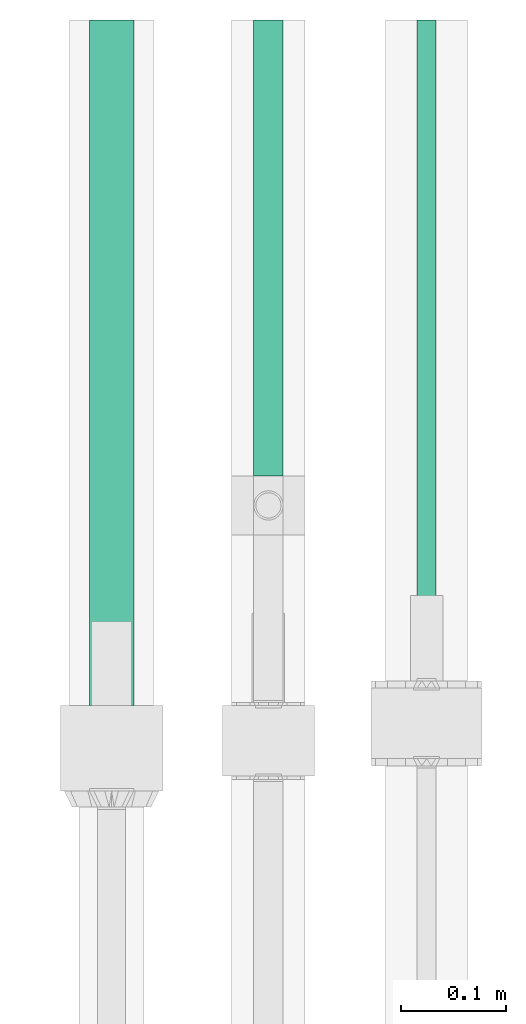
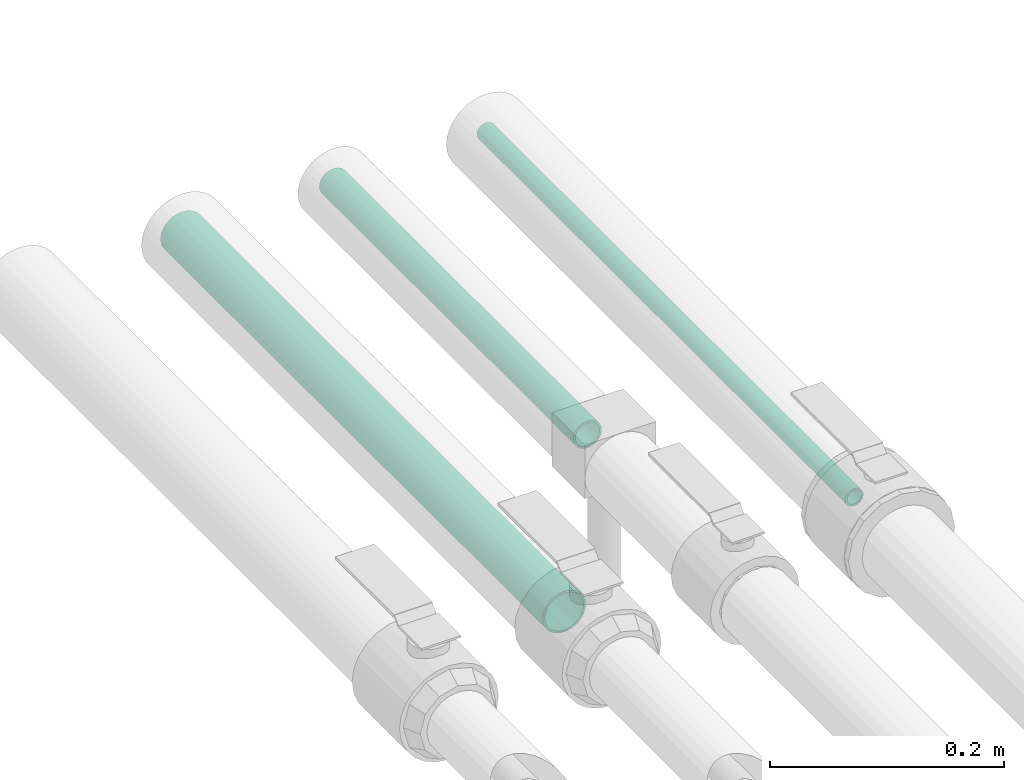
# One storey, part 72 of 83: 3 flow segments.
"""IFC2X3 building model written with IfcOpenShell, lengths in millimetres."""

from ifc_helpers import new_model, entity, si_unit, converted_unit, derived_unit, direction, frame, place, context, subcontext, project, spatial, faceted_brep, type_object, element, save


model = new_model("IFC2X3")

# Units and contexts
model_context = context("Model", 3, precision=0.01, world=frame((0.0, 4.29681676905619e-09, 0.0)), true_north=direction((4.01073788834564e-13, 1.0)))
plan_context = context("Plan", 3, precision=0.01, world=frame((0.0, 4.29681676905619e-09, 0.0)), true_north=direction((4.01073788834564e-13, 1.0)))
body_context = subcontext(model_context, "Body", "Model", "MODEL_VIEW")
ifc_project = project(units=[converted_unit("PLANEANGLEUNIT", "DEGREE", entity("IfcPositiveLengthMeasure", 0.0174532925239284), si_unit("PLANEANGLEUNIT", "RADIAN"), dimensions=[0, 0, 0, 0, 0, 0, 0]), si_unit("AREAUNIT", "SQUARE_METRE"), si_unit("LENGTHUNIT", "METRE", prefix="MILLI"), si_unit("MASSUNIT", "GRAM", prefix="KILO"), si_unit("POWERUNIT", "WATT"), si_unit("PRESSUREUNIT", "PASCAL"), si_unit("FORCEUNIT", "NEWTON", prefix="KILO"), si_unit("ELECTRICVOLTAGEUNIT", "VOLT"), si_unit("ELECTRICCURRENTUNIT", "AMPERE"), si_unit("THERMODYNAMICTEMPERATUREUNIT", "DEGREE_CELSIUS"), si_unit("TIMEUNIT", "SECOND"), si_unit("VOLUMEUNIT", "CUBIC_METRE"), derived_unit("LINEARVELOCITYUNIT", [(si_unit("LENGTHUNIT", "METRE"), 1), (si_unit("TIMEUNIT", "SECOND"), -1)]), derived_unit("VOLUMETRICFLOWRATEUNIT", [(si_unit("VOLUMEUNIT", "CUBIC_METRE"), 1), (si_unit("TIMEUNIT", "SECOND"), -1)]), derived_unit("THERMALTRANSMITTANCEUNIT", [(si_unit("POWERUNIT", "WATT"), 1), (si_unit("THERMODYNAMICTEMPERATUREUNIT", "KELVIN"), -1), (si_unit("AREAUNIT", "SQUARE_METRE"), -1)]), derived_unit("SOUNDPRESSUREUNIT", [(si_unit("PRESSUREUNIT", "PASCAL"), 1)])], contexts=[model_context, plan_context])

# Site, building, storey
site_placement = place(None, frame((0.0, -4.29681676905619e-09, 0.0), z_axis=(0.0, 0.0, 1.0), x_axis=(1.0, 0.0, 0.0)))
site = spatial("IfcSite", under=ifc_project, at=site_placement, Name="ENGM", CompositionType="ELEMENT")
building_placement = place(site_placement, frame((0.0, 4.29681676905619e-09, 0.0), z_axis=(0.0, 0.0, 1.0), x_axis=(1.0, 0.0, 0.0)))
building = spatial("IfcBuilding", under=site, at=building_placement, Name="TI", CompositionType="ELEMENT")
storey_placement = place(building_placement, frame((0.0, 0.0, 204000.0), z_axis=(0.0, 0.0, 1.0), x_axis=(1.0, 0.0, 0.0)))
storey = spatial("IfcBuildingStorey", under=building, at=storey_placement, Name="Nivå D", CompositionType="ELEMENT", Elevation=204000.0)

# Flow segments
pipe_segment_type_1 = type_object("IfcPipeSegmentType", Name="Kobberrør", PredefinedType="RIGIDSEGMENT")
flow_segment_1_placement = place(storey_placement, frame((599881.50429, 700088.1488, 6052.17455), z_axis=(0.0, 0.0, 1.0), x_axis=(0.0, -1.0, 0.0)))
element("IfcFlowSegment", 1, at=flow_segment_1_placement, inside=storey, type_object=pipe_segment_type_1, Name="Kobberrør", context=body_context, shape_type="Brep", body=[
    faceted_brep([(612.648800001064, 11.8176930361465, -2.08377813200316), (612.648800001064, 12.0, 0.0), (1046.6, 12.0, 0.0), (1046.6, 11.8176930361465, -2.08377813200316), (612.648800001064, 11.2763114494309, -4.10424171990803), (1046.6, 11.2763114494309, -4.10424171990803), (612.648800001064, 10.3923048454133, -6.00000000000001), (1046.6, 10.3923048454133, -6.00000000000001), (612.648800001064, 9.19253331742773, -7.71345131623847), (1046.6, 9.19253331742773, -7.71345131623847), (612.648800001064, 7.71345131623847, -9.19253331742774), (1046.6, 7.71345131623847, -9.19253331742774), (612.648800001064, 6.0, -10.3923048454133), (1046.6, 6.0, -10.3923048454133), (612.648800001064, 4.10424171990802, -11.2763114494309), (1046.6, 4.10424171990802, -11.2763114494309), (612.648800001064, 2.08377813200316, -11.8176930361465), (1046.6, 2.08377813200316, -11.8176930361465), (612.648800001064, -2.20436423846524e-15, -12.0), (1046.6, -2.20436423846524e-15, -12.0), (612.648800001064, -2.08377813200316, -11.8176930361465), (1046.6, -2.08377813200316, -11.8176930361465), (612.648800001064, -4.10424171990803, -11.2763114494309), (1046.6, -4.10424171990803, -11.2763114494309), (612.648800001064, -6.00000000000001, -10.3923048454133), (1046.6, -6.00000000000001, -10.3923048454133), (612.648800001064, -7.71345131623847, -9.19253331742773), (1046.6, -7.71345131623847, -9.19253331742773), (612.648800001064, -9.19253331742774, -7.71345131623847), (1046.6, -9.19253331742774, -7.71345131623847), (612.648800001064, -10.3923048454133, -6.0), (1046.6, -10.3923048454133, -6.0), (612.648800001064, -11.2763114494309, -4.10424171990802), (1046.6, -11.2763114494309, -4.10424171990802), (612.648800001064, -11.8176930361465, -2.08377813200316), (1046.6, -11.8176930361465, -2.08377813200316), (612.648800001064, -12.0, 1.46957615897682e-15), (1046.6, -12.0, 1.46957615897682e-15), (612.648800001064, -11.8176930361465, 2.08377813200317), (1046.6, -11.8176930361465, 2.08377813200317), (612.648800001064, -11.2763114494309, 4.10424171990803), (1046.6, -11.2763114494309, 4.10424171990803), (612.648800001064, -10.3923048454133, 6.0), (1046.6, -10.3923048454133, 6.0), (612.648800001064, -9.19253331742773, 7.71345131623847), (1046.6, -9.19253331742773, 7.71345131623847), (612.648800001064, -7.71345131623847, 9.19253331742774), (1046.6, -7.71345131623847, 9.19253331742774), (612.648800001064, -6.0, 10.3923048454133), (1046.6, -6.0, 10.3923048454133), (612.648800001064, -4.10424171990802, 11.2763114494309), (1046.6, -4.10424171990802, 11.2763114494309), (612.648800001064, -2.08377813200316, 11.8176930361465), (1046.6, -2.08377813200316, 11.8176930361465), (612.648800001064, 7.34788079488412e-16, 12.0), (1046.6, 7.34788079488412e-16, 12.0), (612.648800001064, 2.08377813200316, 11.8176930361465), (1046.6, 2.08377813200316, 11.8176930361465), (612.648800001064, 4.10424171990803, 11.2763114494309), (1046.6, 4.10424171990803, 11.2763114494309), (612.648800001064, 6.0, 10.3923048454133), (1046.6, 6.0, 10.3923048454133), (612.648800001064, 7.71345131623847, 9.19253331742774), (1046.6, 7.71345131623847, 9.19253331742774), (612.648800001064, 9.19253331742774, 7.71345131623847), (1046.6, 9.19253331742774, 7.71345131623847), (612.648800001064, 10.3923048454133, 6.0), (1046.6, 10.3923048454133, 6.0), (612.648800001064, 11.2763114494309, 4.10424171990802), (1046.6, 11.2763114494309, 4.10424171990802), (612.648800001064, 11.8176930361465, 2.08377813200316), (1046.6, 11.8176930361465, 2.08377813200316), (612.648800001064, 14.0, 0.0), (612.648800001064, 13.7873085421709, -2.43107448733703), (1046.6, 13.7873085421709, -2.43107448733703), (1046.6, 14.0, 0.0), (612.648800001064, 13.7873085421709, 2.43107448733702), (1046.6, 13.7873085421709, 2.43107448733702), (612.648800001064, 13.1556966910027, 4.78828200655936), (1046.6, 13.1556966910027, 4.78828200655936), (612.648800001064, 12.1243556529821, 7.0), (1046.6, 12.1243556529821, 7.0), (612.648800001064, 10.7246222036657, 8.99902653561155), (1046.6, 10.7246222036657, 8.99902653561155), (612.648800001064, 8.99902653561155, 10.7246222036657), (1046.6, 8.99902653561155, 10.7246222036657), (612.648800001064, 7.0, 12.1243556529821), (1046.6, 7.0, 12.1243556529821), (612.648800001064, 4.78828200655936, 13.1556966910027), (1046.6, 4.78828200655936, 13.1556966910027), (612.648800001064, 2.43107448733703, 13.7873085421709), (1046.6, 2.43107448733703, 13.7873085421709), (612.648800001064, 8.57252759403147e-16, 14.0), (1046.6, 8.57252759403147e-16, 14.0), (612.648800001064, -2.43107448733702, 13.7873085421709), (1046.6, -2.43107448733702, 13.7873085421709), (612.648800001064, -4.78828200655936, 13.1556966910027), (1046.6, -4.78828200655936, 13.1556966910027), (612.648800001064, -7.0, 12.1243556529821), (1046.6, -7.0, 12.1243556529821), (612.648800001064, -8.99902653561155, 10.7246222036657), (1046.6, -8.99902653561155, 10.7246222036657), (612.648800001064, -10.7246222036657, 8.99902653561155), (1046.6, -10.7246222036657, 8.99902653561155), (612.648800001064, -12.1243556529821, 7.0), (1046.6, -12.1243556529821, 7.0), (612.648800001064, -13.1556966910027, 4.78828200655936), (1046.6, -13.1556966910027, 4.78828200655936), (612.648800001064, -13.7873085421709, 2.43107448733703), (1046.6, -13.7873085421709, 2.43107448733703), (612.648800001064, -14.0, 1.71450551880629e-15), (1046.6, -14.0, 1.71450551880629e-15), (612.648800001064, -13.7873085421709, -2.43107448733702), (1046.6, -13.7873085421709, -2.43107448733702), (612.648800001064, -13.1556966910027, -4.78828200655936), (1046.6, -13.1556966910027, -4.78828200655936), (612.648800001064, -12.1243556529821, -7.0), (1046.6, -12.1243556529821, -7.0), (612.648800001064, -10.7246222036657, -8.99902653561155), (1046.6, -10.7246222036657, -8.99902653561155), (612.648800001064, -8.99902653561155, -10.7246222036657), (1046.6, -8.99902653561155, -10.7246222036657), (612.648800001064, -7.00000000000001, -12.1243556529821), (1046.6, -7.00000000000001, -12.1243556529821), (612.648800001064, -4.78828200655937, -13.1556966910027), (1046.6, -4.78828200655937, -13.1556966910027), (612.648800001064, -2.43107448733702, -13.7873085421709), (1046.6, -2.43107448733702, -13.7873085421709), (612.648800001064, -2.57175827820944e-15, -14.0), (1046.6, -2.57175827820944e-15, -14.0), (612.648800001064, 2.43107448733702, -13.7873085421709), (1046.6, 2.43107448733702, -13.7873085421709), (612.648800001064, 4.78828200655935, -13.1556966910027), (1046.6, 4.78828200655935, -13.1556966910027), (612.648800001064, 7.0, -12.1243556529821), (1046.6, 7.0, -12.1243556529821), (612.648800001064, 8.99902653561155, -10.7246222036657), (1046.6, 8.99902653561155, -10.7246222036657), (612.648800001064, 10.7246222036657, -8.99902653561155), (1046.6, 10.7246222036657, -8.99902653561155), (612.648800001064, 12.1243556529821, -7.00000000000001), (1046.6, 12.1243556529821, -7.00000000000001), (612.648800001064, 13.1556966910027, -4.78828200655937), (1046.6, 13.1556966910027, -4.78828200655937)], [[[0, 1, 2, 3]], [[4, 0, 3, 5]], [[6, 4, 5, 7]], [[8, 6, 7, 9]], [[10, 8, 9, 11]], [[12, 10, 11, 13]], [[14, 12, 13, 15]], [[16, 14, 15, 17]], [[18, 16, 17, 19]], [[20, 18, 19, 21]], [[22, 20, 21, 23]], [[24, 22, 23, 25]], [[26, 24, 25, 27]], [[28, 26, 27, 29]], [[30, 28, 29, 31]], [[32, 30, 31, 33]], [[34, 32, 33, 35]], [[36, 34, 35, 37]], [[38, 36, 37, 39]], [[40, 38, 39, 41]], [[42, 40, 41, 43]], [[44, 42, 43, 45]], [[46, 44, 45, 47]], [[48, 46, 47, 49]], [[50, 48, 49, 51]], [[52, 50, 51, 53]], [[54, 52, 53, 55]], [[56, 54, 55, 57]], [[58, 56, 57, 59]], [[60, 58, 59, 61]], [[62, 60, 61, 63]], [[64, 62, 63, 65]], [[66, 64, 65, 67]], [[68, 66, 67, 69]], [[70, 68, 69, 71]], [[1, 70, 71, 2]], [[72, 73, 74, 75]], [[76, 72, 75, 77]], [[78, 76, 77, 79]], [[80, 78, 79, 81]], [[82, 80, 81, 83]], [[84, 82, 83, 85]], [[86, 84, 85, 87]], [[88, 86, 87, 89]], [[90, 88, 89, 91]], [[92, 90, 91, 93]], [[94, 92, 93, 95]], [[96, 94, 95, 97]], [[98, 96, 97, 99]], [[100, 98, 99, 101]], [[102, 100, 101, 103]], [[104, 102, 103, 105]], [[106, 104, 105, 107]], [[108, 106, 107, 109]], [[110, 108, 109, 111]], [[112, 110, 111, 113]], [[114, 112, 113, 115]], [[116, 114, 115, 117]], [[118, 116, 117, 119]], [[120, 118, 119, 121]], [[122, 120, 121, 123]], [[124, 122, 123, 125]], [[126, 124, 125, 127]], [[128, 126, 127, 129]], [[130, 128, 129, 131]], [[132, 130, 131, 133]], [[134, 132, 133, 135]], [[136, 134, 135, 137]], [[138, 136, 137, 139]], [[140, 138, 139, 141]], [[142, 140, 141, 143]], [[73, 142, 143, 74]], [[75, 74, 143, 141, 139, 137, 135, 133, 131, 129, 127, 125, 123, 121, 119, 117, 115, 113, 111, 109, 107, 105, 103, 101, 99, 97, 95, 93, 91, 89, 87, 85, 83, 81, 79, 77], [2, 71, 69, 67, 65, 63, 61, 59, 57, 55, 53, 51, 49, 47, 45, 43, 41, 39, 37, 35, 33, 31, 29, 27, 25, 23, 21, 19, 17, 15, 13, 11, 9, 7, 5, 3]], [[76, 78, 80, 82, 84, 86, 88, 90, 92, 94, 96, 98, 100, 102, 104, 106, 108, 110, 112, 114, 116, 118, 120, 122, 124, 126, 128, 130, 132, 134, 136, 138, 140, 142, 73, 72], [4, 6, 8, 10, 12, 14, 16, 18, 20, 22, 24, 26, 28, 30, 32, 34, 36, 38, 40, 42, 44, 46, 48, 50, 52, 54, 56, 58, 60, 62, 64, 66, 68, 70, 1, 0]]], orient=[[False], [False], [False], [False], [False], [False], [False], [False], [False], [False], [False], [False], [False], [False], [False], [False], [False], [False], [False], [False], [False], [False], [False], [False], [False], [False], [False], [False], [False], [False], [False], [False], [False], [False], [False], [False], [False], [False], [False], [False], [False], [False], [False], [False], [False], [False], [False], [False], [False], [False], [False], [False], [False], [False], [False], [False], [False], [False], [False], [False], [False], [False], [False], [False], [False], [False], [False], [False], [False], [False], [False], [False], [False, False], [False, False]]),
])
flow_segment_2_placement = place(storey_placement, frame((600031.9743, 700302.5909, 6052.20000000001), z_axis=(0.0, 0.0, 1.0), x_axis=(0.0, -1.0, 0.0)))
element("IfcFlowSegment", 2, at=flow_segment_2_placement, inside=storey, type_object=pipe_segment_type_1, Name="Kobberrør", context=body_context, shape_type="Brep", body=[
    faceted_brep([(827.09090000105, 6.89365427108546, -1.21553724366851), (827.09090000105, 7.0, 0.0), (1456.0, 7.0, 0.0), (1456.0, 6.89365427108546, -1.21553724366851), (827.09090000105, 6.57784834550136, -2.39414100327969), (1456.0, 6.57784834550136, -2.39414100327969), (827.09090000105, 6.06217782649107, -3.5), (1456.0, 6.06217782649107, -3.5), (827.09090000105, 5.36231110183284, -4.49951326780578), (1456.0, 5.36231110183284, -4.49951326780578), (827.09090000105, 4.49951326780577, -5.36231110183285), (1456.0, 4.49951326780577, -5.36231110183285), (827.09090000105, 3.5, -6.06217782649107), (1456.0, 3.5, -6.06217782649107), (827.09090000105, 2.39414100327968, -6.57784834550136), (1456.0, 2.39414100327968, -6.57784834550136), (827.09090000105, 1.21553724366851, -6.89365427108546), (1456.0, 1.21553724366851, -6.89365427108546), (827.09090000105, -1.28587913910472e-15, -7.0), (1456.0, -1.28587913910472e-15, -7.0), (827.09090000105, -1.21553724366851, -6.89365427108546), (1456.0, -1.21553724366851, -6.89365427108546), (827.09090000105, -2.39414100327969, -6.57784834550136), (1456.0, -2.39414100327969, -6.57784834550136), (827.09090000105, -3.5, -6.06217782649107), (1456.0, -3.5, -6.06217782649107), (827.09090000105, -4.49951326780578, -5.36231110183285), (1456.0, -4.49951326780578, -5.36231110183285), (827.09090000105, -5.36231110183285, -4.49951326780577), (1456.0, -5.36231110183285, -4.49951326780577), (827.09090000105, -6.06217782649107, -3.5), (1456.0, -6.06217782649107, -3.5), (827.09090000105, -6.57784834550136, -2.39414100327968), (1456.0, -6.57784834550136, -2.39414100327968), (827.09090000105, -6.89365427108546, -1.21553724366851), (1456.0, -6.89365427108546, -1.21553724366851), (827.09090000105, -7.0, 8.57252759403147e-16), (1456.0, -7.0, 8.57252759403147e-16), (827.09090000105, -6.89365427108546, 1.21553724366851), (1456.0, -6.89365427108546, 1.21553724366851), (827.09090000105, -6.57784834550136, 2.39414100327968), (1456.0, -6.57784834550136, 2.39414100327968), (827.09090000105, -6.06217782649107, 3.5), (1456.0, -6.06217782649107, 3.5), (827.09090000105, -5.36231110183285, 4.49951326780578), (1456.0, -5.36231110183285, 4.49951326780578), (827.09090000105, -4.49951326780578, 5.36231110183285), (1456.0, -4.49951326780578, 5.36231110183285), (827.09090000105, -3.5, 6.06217782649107), (1456.0, -3.5, 6.06217782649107), (827.09090000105, -2.39414100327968, 6.57784834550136), (1456.0, -2.39414100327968, 6.57784834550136), (827.09090000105, -1.21553724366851, 6.89365427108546), (1456.0, -1.21553724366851, 6.89365427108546), (827.09090000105, 4.28626379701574e-16, 7.0), (1456.0, 4.28626379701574e-16, 7.0), (827.09090000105, 1.21553724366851, 6.89365427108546), (1456.0, 1.21553724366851, 6.89365427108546), (827.09090000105, 2.39414100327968, 6.57784834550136), (1456.0, 2.39414100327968, 6.57784834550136), (827.09090000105, 3.5, 6.06217782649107), (1456.0, 3.5, 6.06217782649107), (827.09090000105, 4.49951326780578, 5.36231110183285), (1456.0, 4.49951326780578, 5.36231110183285), (827.09090000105, 5.36231110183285, 4.49951326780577), (1456.0, 5.36231110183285, 4.49951326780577), (827.09090000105, 6.06217782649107, 3.5), (1456.0, 6.06217782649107, 3.5), (827.09090000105, 6.57784834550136, 2.39414100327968), (1456.0, 6.57784834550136, 2.39414100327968), (827.09090000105, 6.89365427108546, 1.21553724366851), (1456.0, 6.89365427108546, 1.21553724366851), (827.09090000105, 9.0, 0.0), (827.09090000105, 8.86326977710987, -1.56283359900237), (1456.0, 8.86326977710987, -1.56283359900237), (1456.0, 9.0, 0.0), (827.09090000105, 8.86326977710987, 1.56283359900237), (1456.0, 8.86326977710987, 1.56283359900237), (827.09090000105, 8.45723358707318, 3.07818128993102), (1456.0, 8.45723358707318, 3.07818128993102), (827.09090000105, 7.79422863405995, 4.5), (1456.0, 7.79422863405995, 4.5), (827.09090000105, 6.8943999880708, 5.78508848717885), (1456.0, 6.8943999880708, 5.78508848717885), (827.09090000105, 5.78508848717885, 6.8943999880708), (1456.0, 5.78508848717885, 6.8943999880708), (827.09090000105, 4.5, 7.79422863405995), (1456.0, 4.5, 7.79422863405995), (827.09090000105, 3.07818128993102, 8.45723358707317), (1456.0, 3.07818128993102, 8.45723358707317), (827.09090000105, 1.56283359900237, 8.86326977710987), (1456.0, 1.56283359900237, 8.86326977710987), (827.09090000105, 5.51091059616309e-16, 9.0), (1456.0, 5.51091059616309e-16, 9.0), (827.09090000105, -1.56283359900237, 8.86326977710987), (1456.0, -1.56283359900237, 8.86326977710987), (827.09090000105, -3.07818128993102, 8.45723358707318), (1456.0, -3.07818128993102, 8.45723358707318), (827.09090000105, -4.5, 7.79422863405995), (1456.0, -4.5, 7.79422863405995), (827.09090000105, -5.78508848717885, 6.8943999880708), (1456.0, -5.78508848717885, 6.8943999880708), (827.09090000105, -6.8943999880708, 5.78508848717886), (1456.0, -6.8943999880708, 5.78508848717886), (827.09090000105, -7.79422863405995, 4.5), (1456.0, -7.79422863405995, 4.5), (827.09090000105, -8.45723358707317, 3.07818128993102), (1456.0, -8.45723358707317, 3.07818128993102), (827.09090000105, -8.86326977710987, 1.56283359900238), (1456.0, -8.86326977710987, 1.56283359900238), (827.09090000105, -9.0, 1.10218211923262e-15), (1456.0, -9.0, 1.10218211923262e-15), (827.09090000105, -8.86326977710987, -1.56283359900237), (1456.0, -8.86326977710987, -1.56283359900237), (827.09090000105, -8.45723358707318, -3.07818128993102), (1456.0, -8.45723358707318, -3.07818128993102), (827.09090000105, -7.79422863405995, -4.5), (1456.0, -7.79422863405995, -4.5), (827.09090000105, -6.8943999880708, -5.78508848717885), (1456.0, -6.8943999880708, -5.78508848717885), (827.09090000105, -5.78508848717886, -6.8943999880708), (1456.0, -5.78508848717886, -6.8943999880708), (827.09090000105, -4.5, -7.79422863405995), (1456.0, -4.5, -7.79422863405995), (827.09090000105, -3.07818128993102, -8.45723358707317), (1456.0, -3.07818128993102, -8.45723358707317), (827.09090000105, -1.56283359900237, -8.86326977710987), (1456.0, -1.56283359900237, -8.86326977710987), (827.09090000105, -1.65327317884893e-15, -9.0), (1456.0, -1.65327317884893e-15, -9.0), (827.09090000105, 1.56283359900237, -8.86326977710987), (1456.0, 1.56283359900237, -8.86326977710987), (827.09090000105, 3.07818128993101, -8.45723358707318), (1456.0, 3.07818128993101, -8.45723358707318), (827.09090000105, 4.5, -7.79422863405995), (1456.0, 4.5, -7.79422863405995), (827.09090000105, 5.78508848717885, -6.8943999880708), (1456.0, 5.78508848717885, -6.8943999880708), (827.09090000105, 6.8943999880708, -5.78508848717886), (1456.0, 6.8943999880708, -5.78508848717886), (827.09090000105, 7.79422863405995, -4.5), (1456.0, 7.79422863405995, -4.5), (827.09090000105, 8.45723358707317, -3.07818128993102), (1456.0, 8.45723358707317, -3.07818128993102)], [[[0, 1, 2, 3]], [[4, 0, 3, 5]], [[6, 4, 5, 7]], [[8, 6, 7, 9]], [[10, 8, 9, 11]], [[12, 10, 11, 13]], [[14, 12, 13, 15]], [[16, 14, 15, 17]], [[18, 16, 17, 19]], [[20, 18, 19, 21]], [[22, 20, 21, 23]], [[24, 22, 23, 25]], [[26, 24, 25, 27]], [[28, 26, 27, 29]], [[30, 28, 29, 31]], [[32, 30, 31, 33]], [[34, 32, 33, 35]], [[36, 34, 35, 37]], [[38, 36, 37, 39]], [[40, 38, 39, 41]], [[42, 40, 41, 43]], [[44, 42, 43, 45]], [[46, 44, 45, 47]], [[48, 46, 47, 49]], [[50, 48, 49, 51]], [[52, 50, 51, 53]], [[54, 52, 53, 55]], [[56, 54, 55, 57]], [[58, 56, 57, 59]], [[60, 58, 59, 61]], [[62, 60, 61, 63]], [[64, 62, 63, 65]], [[66, 64, 65, 67]], [[68, 66, 67, 69]], [[70, 68, 69, 71]], [[1, 70, 71, 2]], [[72, 73, 74, 75]], [[76, 72, 75, 77]], [[78, 76, 77, 79]], [[80, 78, 79, 81]], [[82, 80, 81, 83]], [[84, 82, 83, 85]], [[86, 84, 85, 87]], [[88, 86, 87, 89]], [[90, 88, 89, 91]], [[92, 90, 91, 93]], [[94, 92, 93, 95]], [[96, 94, 95, 97]], [[98, 96, 97, 99]], [[100, 98, 99, 101]], [[102, 100, 101, 103]], [[104, 102, 103, 105]], [[106, 104, 105, 107]], [[108, 106, 107, 109]], [[110, 108, 109, 111]], [[112, 110, 111, 113]], [[114, 112, 113, 115]], [[116, 114, 115, 117]], [[118, 116, 117, 119]], [[120, 118, 119, 121]], [[122, 120, 121, 123]], [[124, 122, 123, 125]], [[126, 124, 125, 127]], [[128, 126, 127, 129]], [[130, 128, 129, 131]], [[132, 130, 131, 133]], [[134, 132, 133, 135]], [[136, 134, 135, 137]], [[138, 136, 137, 139]], [[140, 138, 139, 141]], [[142, 140, 141, 143]], [[73, 142, 143, 74]], [[75, 74, 143, 141, 139, 137, 135, 133, 131, 129, 127, 125, 123, 121, 119, 117, 115, 113, 111, 109, 107, 105, 103, 101, 99, 97, 95, 93, 91, 89, 87, 85, 83, 81, 79, 77], [2, 71, 69, 67, 65, 63, 61, 59, 57, 55, 53, 51, 49, 47, 45, 43, 41, 39, 37, 35, 33, 31, 29, 27, 25, 23, 21, 19, 17, 15, 13, 11, 9, 7, 5, 3]], [[76, 78, 80, 82, 84, 86, 88, 90, 92, 94, 96, 98, 100, 102, 104, 106, 108, 110, 112, 114, 116, 118, 120, 122, 124, 126, 128, 130, 132, 134, 136, 138, 140, 142, 73, 72], [4, 6, 8, 10, 12, 14, 16, 18, 20, 22, 24, 26, 28, 30, 32, 34, 36, 38, 40, 42, 44, 46, 48, 50, 52, 54, 56, 58, 60, 62, 64, 66, 68, 70, 1, 0]]], orient=[[False], [False], [False], [False], [False], [False], [False], [False], [False], [False], [False], [False], [False], [False], [False], [False], [False], [False], [False], [False], [False], [False], [False], [False], [False], [False], [False], [False], [False], [False], [False], [False], [False], [False], [False], [False], [False], [False], [False], [False], [False], [False], [False], [False], [False], [False], [False], [False], [False], [False], [False], [False], [False], [False], [False], [False], [False], [False], [False], [False], [False], [False], [False], [False], [False], [False], [False], [False], [False], [False], [False], [False], [False, False], [False, False]]),
])
pipe_segment_type_2 = type_object("IfcPipeSegmentType", Name="Stålrør normaltykke", PredefinedType="RIGIDSEGMENT")
flow_segment_3_placement = place(storey_placement, frame((599732.2743, 699900.47687, 6052.20000000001), z_axis=(0.0, -2.69999999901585e-05, 0.9999999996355), x_axis=(0.0, -0.9999999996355, -2.69999999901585e-05)))
element("IfcFlowSegment", 3, at=flow_segment_3_placement, inside=storey, type_object=pipe_segment_type_2, Name="Stålrør normaltykke", context=body_context, shape_type="Brep", body=[
    faceted_brep([(424.976960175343, 18.9083088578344, -3.33404501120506), (424.976870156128, 19.2, 0.0), (1077.5, 19.2, 0.0), (1077.5, 18.9083088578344, -3.33404501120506), (424.97704745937, 18.0420983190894, -6.56678675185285), (1077.5, 18.0420983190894, -6.56678675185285), (424.977129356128, 16.6276877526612, -9.60000000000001), (1077.5, 16.6276877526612, -9.60000000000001), (424.977203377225, 14.7080533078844, -12.3415221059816), (1077.5, 14.7080533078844, -12.3415221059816), (424.977267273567, 12.3415221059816, -14.7080533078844), (1077.5, 12.3415221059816, -14.7080533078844), (424.977319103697, 9.6, -16.6276877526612), (1077.5, 9.6, -16.6276877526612), (424.977357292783, 6.56678675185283, -18.0420983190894), (1077.5, 6.56678675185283, -18.0420983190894), (424.977380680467, 3.33404501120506, -18.9083088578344), (1077.5, 3.33404501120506, -18.9083088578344), (424.977388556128, -3.52698278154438e-15, -19.2), (1077.5, -3.52698278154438e-15, -19.2), (424.977380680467, -3.33404501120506, -18.9083088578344), (1077.5, -3.33404501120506, -18.9083088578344), (424.977357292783, -6.56678675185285, -18.0420983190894), (1077.5, -6.56678675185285, -18.0420983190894), (424.977319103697, -9.60000000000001, -16.6276877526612), (1077.5, -9.60000000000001, -16.6276877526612), (424.977267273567, -12.3415221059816, -14.7080533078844), (1077.5, -12.3415221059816, -14.7080533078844), (424.977203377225, -14.7080533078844, -12.3415221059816), (1077.5, -14.7080533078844, -12.3415221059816), (424.977129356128, -16.6276877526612, -9.59999999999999), (1077.5, -16.6276877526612, -9.59999999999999), (424.97704745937, -18.0420983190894, -6.56678675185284), (1077.5, -18.0420983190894, -6.56678675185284), (424.976960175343, -18.9083088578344, -3.33404501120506), (1077.5, -18.9083088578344, -3.33404501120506), (424.976870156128, -19.2, 2.35132185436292e-15), (1077.5, -19.2, 2.35132185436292e-15), (424.976780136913, -18.9083088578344, 3.33404501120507), (1077.5, -18.9083088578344, 3.33404501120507), (424.976692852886, -18.0420983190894, 6.56678675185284), (1077.5, -18.0420983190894, 6.56678675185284), (424.976610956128, -16.6276877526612, 9.6), (1077.5, -16.6276877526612, 9.6), (424.976536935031, -14.7080533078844, 12.3415221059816), (1077.5, -14.7080533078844, 12.3415221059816), (424.976473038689, -12.3415221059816, 14.7080533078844), (1077.5, -12.3415221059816, 14.7080533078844), (424.976421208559, -9.6, 16.6276877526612), (1077.5, -9.6, 16.6276877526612), (424.976383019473, -6.56678675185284, 18.0420983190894), (1077.5, -6.56678675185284, 18.0420983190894), (424.976359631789, -3.33404501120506, 18.9083088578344), (1077.5, -3.33404501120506, 18.9083088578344), (424.976351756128, 1.17566092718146e-15, 19.2), (1077.5, 1.17566092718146e-15, 19.2), (424.976359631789, 3.33404501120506, 18.9083088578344), (1077.5, 3.33404501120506, 18.9083088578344), (424.976383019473, 6.56678675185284, 18.0420983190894), (1077.5, 6.56678675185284, 18.0420983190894), (424.976421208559, 9.6, 16.6276877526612), (1077.5, 9.6, 16.6276877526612), (424.976473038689, 12.3415221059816, 14.7080533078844), (1077.5, 12.3415221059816, 14.7080533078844), (424.976536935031, 14.7080533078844, 12.3415221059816), (1077.5, 14.7080533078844, 12.3415221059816), (424.976610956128, 16.6276877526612, 9.6), (1077.5, 16.6276877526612, 9.6), (424.976692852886, 18.0420983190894, 6.56678675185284), (1077.5, 18.0420983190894, 6.56678675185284), (424.976780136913, 18.9083088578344, 3.33404501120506), (1077.5, 18.9083088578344, 3.33404501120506), (424.976870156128, 21.2, 0.0), (424.976969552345, 20.8779243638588, -3.68134136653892), (1077.5, 20.8779243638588, -3.68134136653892), (1077.5, 21.2, 0.0), (424.976770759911, 20.8779243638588, 3.68134136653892), (1077.5, 20.8779243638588, 3.68134136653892), (424.976674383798, 19.9214835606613, 7.25082703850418), (1077.5, 19.9214835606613, 7.25082703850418), (424.976583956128, 18.3597385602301, 10.6), (1077.5, 18.3597385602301, 10.6), (424.9765022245, 16.2401421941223, 13.6270973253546), (1077.5, 16.2401421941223, 13.6270973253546), (424.976431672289, 13.6270973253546, 16.2401421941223), (1077.5, 13.6270973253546, 16.2401421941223), (424.976374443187, 10.6, 18.3597385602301), (1077.5, 10.6, 18.3597385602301), (424.976332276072, 7.25082703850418, 19.9214835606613), (1077.5, 7.25082703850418, 19.9214835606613), (424.97630645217, 3.68134136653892, 20.8779243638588), (1077.5, 3.68134136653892, 20.8779243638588), (424.976297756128, 1.29812560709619e-15, 21.2), (1077.5, 1.29812560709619e-15, 21.2), (424.97630645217, -3.68134136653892, 20.8779243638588), (1077.5, -3.68134136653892, 20.8779243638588), (424.976332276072, -7.25082703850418, 19.9214835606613), (1077.5, -7.25082703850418, 19.9214835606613), (424.976374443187, -10.6, 18.3597385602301), (1077.5, -10.6, 18.3597385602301), (424.976431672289, -13.6270973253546, 16.2401421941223), (1077.5, -13.6270973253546, 16.2401421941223), (424.9765022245, -16.2401421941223, 13.6270973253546), (1077.5, -16.2401421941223, 13.6270973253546), (424.976583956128, -18.3597385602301, 10.6), (1077.5, -18.3597385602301, 10.6), (424.976674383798, -19.9214835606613, 7.25082703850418), (1077.5, -19.9214835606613, 7.25082703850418), (424.976770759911, -20.8779243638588, 3.68134136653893), (1077.5, -20.8779243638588, 3.68134136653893), (424.976870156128, -21.2, 2.59625121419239e-15), (1077.5, -21.2, 2.59625121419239e-15), (424.976969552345, -20.8779243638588, -3.68134136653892), (1077.5, -20.8779243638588, -3.68134136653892), (424.977065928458, -19.9214835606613, -7.25082703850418), (1077.5, -19.9214835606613, -7.25082703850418), (424.977156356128, -18.3597385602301, -10.6), (1077.5, -18.3597385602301, -10.6), (424.977238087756, -16.2401421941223, -13.6270973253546), (1077.5, -16.2401421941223, -13.6270973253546), (424.977308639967, -13.6270973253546, -16.2401421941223), (1077.5, -13.6270973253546, -16.2401421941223), (424.977365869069, -10.6, -18.3597385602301), (1077.5, -10.6, -18.3597385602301), (424.977408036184, -7.25082703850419, -19.9214835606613), (1077.5, -7.25082703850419, -19.9214835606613), (424.977433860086, -3.68134136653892, -20.8779243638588), (1077.5, -3.68134136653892, -20.8779243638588), (424.977442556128, -3.89437682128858e-15, -21.2), (1077.5, -3.89437682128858e-15, -21.2), (424.977433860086, 3.68134136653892, -20.8779243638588), (1077.5, 3.68134136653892, -20.8779243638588), (424.977408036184, 7.25082703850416, -19.9214835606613), (1077.5, 7.25082703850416, -19.9214835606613), (424.977365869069, 10.6, -18.3597385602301), (1077.5, 10.6, -18.3597385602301), (424.977308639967, 13.6270973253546, -16.2401421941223), (1077.5, 13.6270973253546, -16.2401421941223), (424.977238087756, 16.2401421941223, -13.6270973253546), (1077.5, 16.2401421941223, -13.6270973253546), (424.977156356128, 18.3597385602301, -10.6), (1077.5, 18.3597385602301, -10.6), (424.977065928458, 19.9214835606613, -7.25082703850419), (1077.5, 19.9214835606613, -7.25082703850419)], [[[0, 1, 2, 3]], [[4, 0, 3, 5]], [[6, 4, 5, 7]], [[8, 6, 7, 9]], [[10, 8, 9, 11]], [[12, 10, 11, 13]], [[14, 12, 13, 15]], [[16, 14, 15, 17]], [[18, 16, 17, 19]], [[20, 18, 19, 21]], [[22, 20, 21, 23]], [[24, 22, 23, 25]], [[26, 24, 25, 27]], [[28, 26, 27, 29]], [[30, 28, 29, 31]], [[32, 30, 31, 33]], [[34, 32, 33, 35]], [[36, 34, 35, 37]], [[38, 36, 37, 39]], [[40, 38, 39, 41]], [[42, 40, 41, 43]], [[44, 42, 43, 45]], [[46, 44, 45, 47]], [[48, 46, 47, 49]], [[50, 48, 49, 51]], [[52, 50, 51, 53]], [[54, 52, 53, 55]], [[56, 54, 55, 57]], [[58, 56, 57, 59]], [[60, 58, 59, 61]], [[62, 60, 61, 63]], [[64, 62, 63, 65]], [[66, 64, 65, 67]], [[68, 66, 67, 69]], [[70, 68, 69, 71]], [[1, 70, 71, 2]], [[72, 73, 74, 75]], [[76, 72, 75, 77]], [[78, 76, 77, 79]], [[80, 78, 79, 81]], [[82, 80, 81, 83]], [[84, 82, 83, 85]], [[86, 84, 85, 87]], [[88, 86, 87, 89]], [[90, 88, 89, 91]], [[92, 90, 91, 93]], [[94, 92, 93, 95]], [[96, 94, 95, 97]], [[98, 96, 97, 99]], [[100, 98, 99, 101]], [[102, 100, 101, 103]], [[104, 102, 103, 105]], [[106, 104, 105, 107]], [[108, 106, 107, 109]], [[110, 108, 109, 111]], [[112, 110, 111, 113]], [[114, 112, 113, 115]], [[116, 114, 115, 117]], [[118, 116, 117, 119]], [[120, 118, 119, 121]], [[122, 120, 121, 123]], [[124, 122, 123, 125]], [[126, 124, 125, 127]], [[128, 126, 127, 129]], [[130, 128, 129, 131]], [[132, 130, 131, 133]], [[134, 132, 133, 135]], [[136, 134, 135, 137]], [[138, 136, 137, 139]], [[140, 138, 139, 141]], [[142, 140, 141, 143]], [[73, 142, 143, 74]], [[75, 74, 143, 141, 139, 137, 135, 133, 131, 129, 127, 125, 123, 121, 119, 117, 115, 113, 111, 109, 107, 105, 103, 101, 99, 97, 95, 93, 91, 89, 87, 85, 83, 81, 79, 77], [2, 71, 69, 67, 65, 63, 61, 59, 57, 55, 53, 51, 49, 47, 45, 43, 41, 39, 37, 35, 33, 31, 29, 27, 25, 23, 21, 19, 17, 15, 13, 11, 9, 7, 5, 3]], [[76, 78, 80, 82, 84, 86, 88, 90, 92, 94, 96, 98, 100, 102, 104, 106, 108, 110, 112, 114, 116, 118, 120, 122, 124, 126, 128, 130, 132, 134, 136, 138, 140, 142, 73, 72], [4, 6, 8, 10, 12, 14, 16, 18, 20, 22, 24, 26, 28, 30, 32, 34, 36, 38, 40, 42, 44, 46, 48, 50, 52, 54, 56, 58, 60, 62, 64, 66, 68, 70, 1, 0]]], orient=[[False], [False], [False], [False], [False], [False], [False], [False], [False], [False], [False], [False], [False], [False], [False], [False], [False], [False], [False], [False], [False], [False], [False], [False], [False], [False], [False], [False], [False], [False], [False], [False], [False], [False], [False], [False], [False], [False], [False], [False], [False], [False], [False], [False], [False], [False], [False], [False], [False], [False], [False], [False], [False], [False], [False], [False], [False], [False], [False], [False], [False], [False], [False], [False], [False], [False], [False], [False], [False], [False], [False], [False], [False, False], [False, False]]),
])

save(model, "model.ifc")
